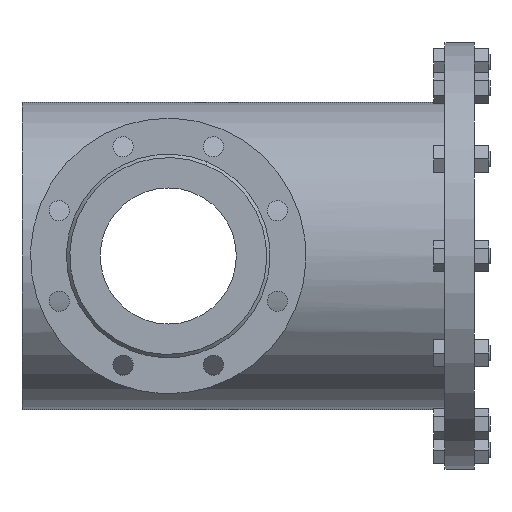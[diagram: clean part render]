
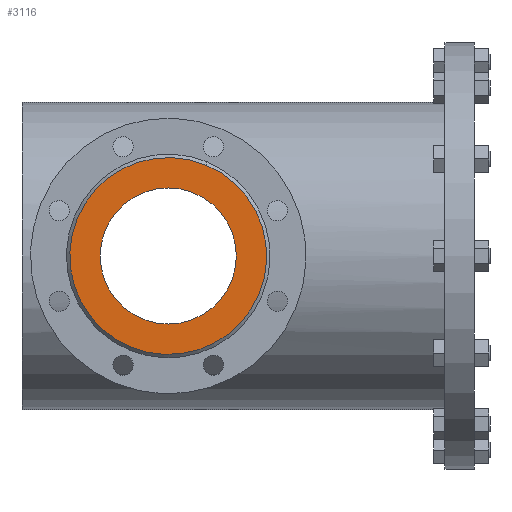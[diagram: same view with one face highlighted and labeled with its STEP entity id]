
A CAD part, left-side view. The second image highlights one B-rep face of the part: STEP entity #3116.
In plain terms, the highlighted planar face has unit normal (-1, 0, 0).
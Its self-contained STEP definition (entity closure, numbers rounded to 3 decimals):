
#290 = DIRECTION ( 'NONE',  ( 0., -0.383, 0.924 ) ) ;
#350 = PLANE ( 'NONE',  #7877 ) ;
#510 = CIRCLE ( 'NONE', #6166, 60.5 ) ;
#890 = AXIS2_PLACEMENT_3D ( 'NONE', #8833, #2597, #8656 ) ;
#972 = CARTESIAN_POINT ( 'NONE',  ( -237.5, 250., 0. ) ) ;
#1685 = EDGE_CURVE ( 'NONE', #3835, #7816, #6390, .T. ) ;
#1956 = EDGE_CURVE ( 'NONE', #7816, #3835, #5529, .T. ) ;
#2134 = DIRECTION ( 'NONE',  ( 0., 0., 1. ) ) ;
#2432 = CARTESIAN_POINT ( 'NONE',  ( -237.5, 250., 60.5 ) ) ;
#2479 = AXIS2_PLACEMENT_3D ( 'NONE', #972, #6505, #290 ) ;
#2597 = DIRECTION ( 'NONE',  ( -1., 0., 0. ) ) ;
#2985 = EDGE_LOOP ( 'NONE', ( #8844, #8019 ) ) ;
#3116 = ADVANCED_FACE ( 'NONE', ( #5845, #8609 ), #350, .T. ) ;
#3539 = CARTESIAN_POINT ( 'NONE',  ( -237.5, 283.485, -80.839 ) ) ;
#3835 = VERTEX_POINT ( 'NONE', #7973 ) ;
#3975 = ORIENTED_EDGE ( 'NONE', *, *, #1685, .T. ) ;
#4016 = VERTEX_POINT ( 'NONE', #2432 ) ;
#4770 = AXIS2_PLACEMENT_3D ( 'NONE', #6360, #5828, #8589 ) ;
#4877 = DIRECTION ( 'NONE',  ( -1., 0., 0. ) ) ;
#5526 = CARTESIAN_POINT ( 'NONE',  ( -237.5, 250., -60.5 ) ) ;
#5529 = CIRCLE ( 'NONE', #890, 87.5 ) ;
#5729 = EDGE_CURVE ( 'NONE', #5947, #4016, #510, .T. ) ;
#5828 = DIRECTION ( 'NONE',  ( -1., 0., 0. ) ) ;
#5845 = FACE_BOUND ( 'NONE', #2985, .T. ) ;
#5947 = VERTEX_POINT ( 'NONE', #5526 ) ;
#6166 = AXIS2_PLACEMENT_3D ( 'NONE', #6958, #4877, #2134 ) ;
#6360 = CARTESIAN_POINT ( 'NONE',  ( -237.5, 250., 0. ) ) ;
#6390 = CIRCLE ( 'NONE', #2479, 87.5 ) ;
#6498 = CIRCLE ( 'NONE', #4770, 60.5 ) ;
#6505 = DIRECTION ( 'NONE',  ( -1., 0., 0. ) ) ;
#6958 = CARTESIAN_POINT ( 'NONE',  ( -237.5, 250., 0. ) ) ;
#7402 = EDGE_CURVE ( 'NONE', #4016, #5947, #6498, .T. ) ;
#7816 = VERTEX_POINT ( 'NONE', #3539 ) ;
#7877 = AXIS2_PLACEMENT_3D ( 'NONE', #7933, #8114, #8077 ) ;
#7933 = CARTESIAN_POINT ( 'NONE',  ( -237.5, 250., 0. ) ) ;
#7973 = CARTESIAN_POINT ( 'NONE',  ( -237.5, 216.515, 80.839 ) ) ;
#8019 = ORIENTED_EDGE ( 'NONE', *, *, #5729, .F. ) ;
#8077 = DIRECTION ( 'NONE',  ( 0., 0., 1. ) ) ;
#8114 = DIRECTION ( 'NONE',  ( -1., 0., 0. ) ) ;
#8287 = ORIENTED_EDGE ( 'NONE', *, *, #1956, .T. ) ;
#8518 = EDGE_LOOP ( 'NONE', ( #8287, #3975 ) ) ;
#8589 = DIRECTION ( 'NONE',  ( 0., 0., 1. ) ) ;
#8609 = FACE_OUTER_BOUND ( 'NONE', #8518, .T. ) ;
#8656 = DIRECTION ( 'NONE',  ( 0., -0.383, 0.924 ) ) ;
#8833 = CARTESIAN_POINT ( 'NONE',  ( -237.5, 250., 0. ) ) ;
#8844 = ORIENTED_EDGE ( 'NONE', *, *, #7402, .F. ) ;
